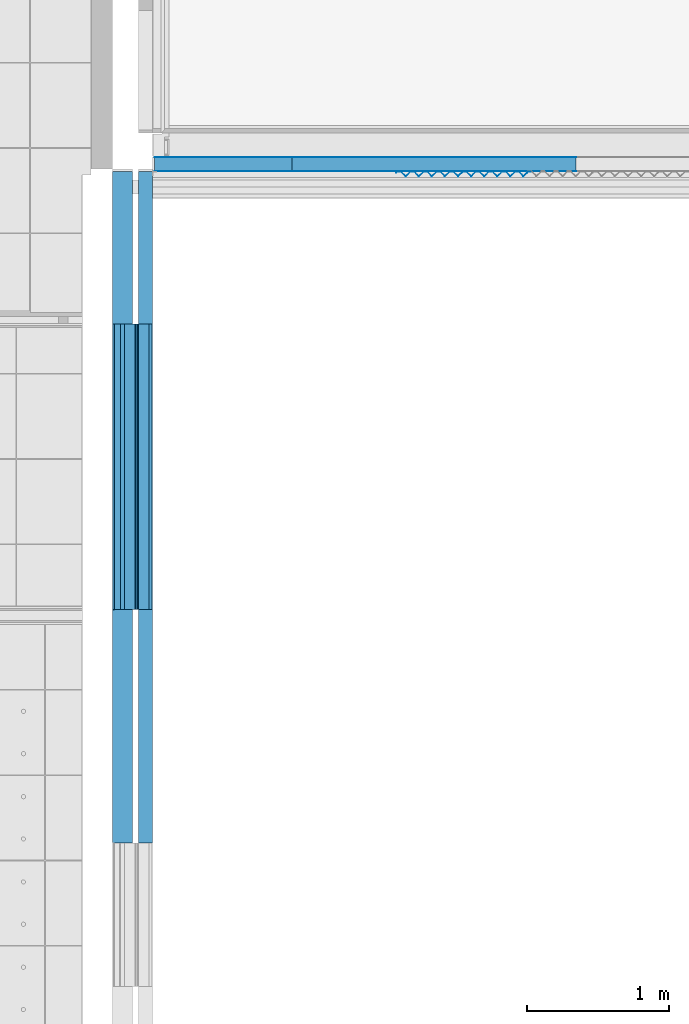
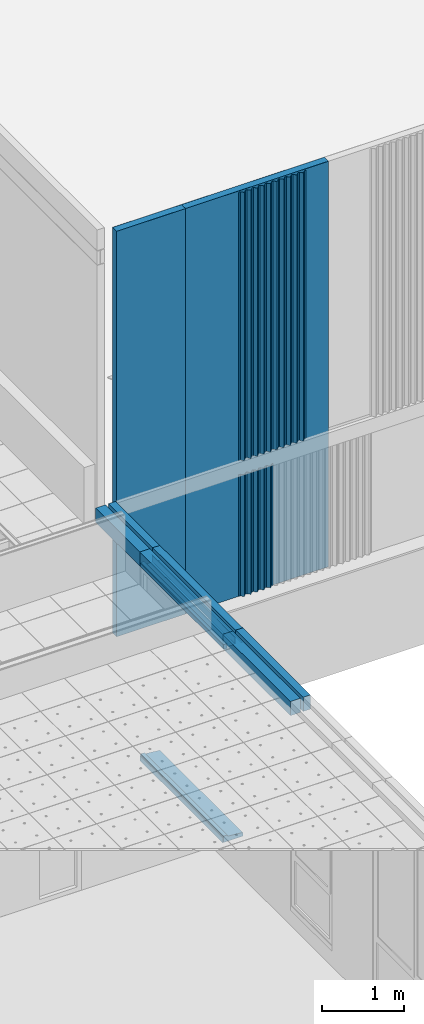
# One storey, part 87 of 338: 21 building element parts, 8 elements without a shape of their own.
"""IFC2X3 building model written with IfcOpenShell, lengths in millimetres."""

from ifc_helpers import new_model, entity, si_unit, converted_unit, derived_unit, money_unit, direction, frame, origin_with_axes, place, context, subcontext, project, spatial, faceted_brep, material, type_object, element, aggregate, save


model = new_model("IFC2X3")

# Units and contexts
model_context = context("Model", 3, precision=0.01, world=origin_with_axes(), true_north=direction((0.0, 1.0)))
plan_context = context("Plan", 3, precision=0.01, world=origin_with_axes(), true_north=direction((0.0, 1.0)))
body_context = subcontext(model_context, "Body", "Model", "MODEL_VIEW")
ifc_project = project(units=[si_unit("LENGTHUNIT", "METRE", prefix="MILLI"), si_unit("AREAUNIT", "SQUARE_METRE"), si_unit("VOLUMEUNIT", "CUBIC_METRE"), converted_unit("PLANEANGLEUNIT", "DEGREE", entity("IfcPlaneAngleMeasure", 0.0174532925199), si_unit("PLANEANGLEUNIT", "RADIAN"), dimensions=[0, 0, 0, 0, 0, 0, 0]), money_unit("EUR"), converted_unit("TIMEUNIT", "Year", entity("IfcTimeMeasure", 31556926.0), si_unit("TIMEUNIT", "SECOND"), dimensions=[0, 0, 1, 0, 0, 0, 0]), si_unit("MASSUNIT", "GRAM", prefix="KILO"), si_unit("THERMODYNAMICTEMPERATUREUNIT", "DEGREE_CELSIUS"), si_unit("LUMINOUSINTENSITYUNIT", "LUMEN"), si_unit("ENERGYUNIT", "JOULE", prefix="MEGA"), derived_unit("THERMALCONDUCTANCEUNIT", [(si_unit("POWERUNIT", "WATT"), 1), (si_unit("LENGTHUNIT", "METRE"), -1), (si_unit("THERMODYNAMICTEMPERATUREUNIT", "KELVIN"), -1)]), derived_unit("SPECIFICHEATCAPACITYUNIT", [(si_unit("ENERGYUNIT", "JOULE"), 1), (si_unit("MASSUNIT", "GRAM", prefix="KILO"), -1), (si_unit("THERMODYNAMICTEMPERATUREUNIT", "KELVIN"), -1)]), derived_unit("MASSDENSITYUNIT", [(si_unit("MASSUNIT", "GRAM", prefix="KILO"), 1), (si_unit("VOLUMEUNIT", "CUBIC_METRE"), -1)])], contexts=[model_context, plan_context])

# Site, building, storey
site_placement = place(None, origin_with_axes())
site = spatial("IfcSite", under=ifc_project, at=site_placement, Name="Fortuinstraat Woensdrecht", CompositionType="ELEMENT")
building_placement = place(site_placement, origin_with_axes())
building = spatial("IfcBuilding", under=site, at=building_placement, Name="IKC Fortuna", CompositionType="ELEMENT")
storey_placement = place(building_placement, origin_with_axes())
storey = spatial("IfcBuildingStorey", under=building, at=storey_placement, Name="00 begane grond", CompositionType="ELEMENT", Elevation=0.0)

# Covering, building element parts
covering_type_1 = type_object("IfcCoveringType", Name="41 Latei MW rollaag 280 x 227", PredefinedType="NOTDEFINED")
covering_1_placement = place(storey_placement, frame((34973.4270641, 19822.2966283, 2800.0), z_axis=(0.0, 0.0, 1.0), x_axis=(0.0, -1.0, 0.0)))
covering_1 = element("IfcCovering", 1, at=covering_1_placement, inside=storey, type_object=covering_type_1, Name="41_Afwerking_Latei + rollaag", PredefinedType="NOTDEFINED")
ifc_material_1 = material(Name="Metaal - Staal C")
building_element_part_1_placement = place(covering_1_placement, origin_with_axes())
building_element_part_1 = element("IfcBuildingElementPart", 2, at=building_element_part_1_placement, material=ifc_material_1, Name="Metaal - Staal C", context=body_context, shape_type="Brep", body=[
    faceted_brep([(2010.0, 19.9999930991, 120.999993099), (0.0, 19.9999930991, 120.999993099), (0.0, 18.0000000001, 119.0), (2010.0, 18.0000000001, 119.0), (0.0, 19.9999930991, 117.000006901), (2010.0, 19.9999930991, 117.000006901)], [[[0, 1, 2, 3]], [[4, 1, 0, 5]], [[1, 4, 2]], [[4, 5, 3, 2]], [[5, 0, 3]]]),
    faceted_brep([(0.0, 33.5147117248, 3.51471862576), (0.0, 32.0, 7.17155621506), (0.0, 32.0, 105.0), (0.0, 29.9999930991, 107.000006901), (0.0, 29.9999930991, 112.580618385), (0.0, 36.0000000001, 106.530733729), (0.0, 36.0000000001, 3.99999999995), (0.0, 36.7573607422, 2.17156942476), (2010.0, 33.5147117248, 3.51471862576), (2010.0, 32.0, 7.17155621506), (2010.0, 32.0, 105.0), (2010.0, 29.9999930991, 107.000006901), (2010.0, 29.9999930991, 112.580618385), (2010.0, 36.0000000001, 106.530733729), (2010.0, 36.0000000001, 3.99999999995), (2010.0, 36.7573607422, 2.17156942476)], [[[0, 1, 2, 3, 4, 5, 6, 7]], [[1, 0, 8, 9]], [[1, 9, 10, 2]], [[11, 3, 2, 10]], [[12, 4, 3, 11]], [[4, 12, 13, 5]], [[5, 13, 14, 6]], [[15, 7, 6, 14]], [[0, 7, 15, 8]], [[8, 15, 14, 13, 12, 11, 10, 9]]]),
    faceted_brep([(2010.0, 119.528896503, -4.86267220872), (0.0, 119.528896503, -4.86267220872), (0.0, 135.215535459, -8.0), (2010.0, 135.215535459, -8.0), (0.0, 118.242633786, -1.75735931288), (2010.0, 118.242633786, -1.75735931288), (0.0, 113.999993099, 0.0), (0.0, 115.609685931, 0.0), (0.0, 136.0, -4.07767729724), (2010.0, 136.0, -4.07767729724), (2010.0, 115.609685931, 0.0), (2010.0, 113.999993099, 0.0)], [[[0, 1, 2, 3]], [[4, 1, 0, 5]], [[4, 6, 7, 8, 2, 1]], [[8, 9, 3, 2]], [[5, 0, 3, 9, 10, 11]], [[6, 4, 5, 11]], [[6, 11, 10, 7]], [[7, 10, 9, 8]]]),
])
ifc_material_2 = material(Name="Steen - Baksteen Accent Rollaag")
building_element_part_2_placement = place(covering_1_placement, origin_with_axes())
building_element_part_2 = element("IfcBuildingElementPart", 3, at=building_element_part_2_placement, material=ifc_material_2, Name="Steen - Baksteen Accent Rollaag", context=body_context, shape_type="Brep", body=[
    faceted_brep([(2010.0, 41.9999930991, 0.0), (0.0, 41.9999930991, 0.0), (0.0, 115.609685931, 0.0), (2010.0, 115.609685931, 0.0), (0.0, 40.0, 0.828424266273), (2010.0, 40.0, 0.828424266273), (0.0, 40.0, 210.0), (0.0, 140.0, 210.0), (0.0, 140.0, 0.0), (2010.0, 140.0, 0.0), (2010.0, 140.0, 210.0), (2010.0, 40.0, 210.0)], [[[0, 1, 2, 3]], [[4, 1, 0, 5]], [[1, 4, 6, 7, 8, 2]], [[8, 9, 3, 2]], [[5, 0, 3, 9, 10, 11]], [[4, 5, 11, 6]], [[6, 11, 10, 7]], [[7, 10, 9, 8]]]),
])
ifc_material_3 = material(Name="Metaal - Staal AFW")
building_element_part_3_placement = place(covering_1_placement, origin_with_axes())
building_element_part_3 = element("IfcBuildingElementPart", 4, at=building_element_part_3_placement, material=ifc_material_3, Name="Metaal - Staal AFW", context=body_context, shape_type="Brep", body=[
    faceted_brep([(2010.0, 19.9999930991, 4.0), (0.0, 19.9999930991, 4.0), (0.0, -58.0, 4.0), (2010.0, -58.0, 4.0), (0.0, 19.9999930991, 0.0), (2010.0, 19.9999930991, 0.0), (0.0, -58.0, 0.0), (2010.0, -58.0, 0.0)], [[[0, 1, 2, 3]], [[4, 1, 0, 5]], [[1, 4, 6, 2]], [[6, 7, 3, 2]], [[5, 0, 3, 7]], [[4, 5, 7, 6]]]),
])
ifc_material_4 = material(Name="ALG - ISOLATIE")
building_element_part_4_placement = place(covering_1_placement, origin_with_axes())
building_element_part_4 = element("IfcBuildingElementPart", 5, at=building_element_part_4_placement, material=ifc_material_4, Name="ALG - ISOLATIE", context=body_context, shape_type="Brep", body=[
    faceted_brep([(2010.0, -140.0, 53.0), (2010.0, -140.0, 210.0), (0.0, -140.0, 210.0), (0.0, -140.0, 53.0), (2010.0, -83.9999988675, 53.0000013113), (2010.0, 0.0, 53.0), (2010.0, 0.0, 210.0), (0.0, 0.0, 210.0), (0.0, 0.0, 53.0), (0.0, -83.9999988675, 53.0000013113)], [[[0, 1, 2, 3]], [[0, 4, 5, 6, 1]], [[1, 6, 7, 2]], [[3, 2, 7, 8, 9]], [[4, 0, 3, 9]], [[5, 4, 9, 8]], [[6, 5, 8, 7]]]),
])
ifc_material_5 = material(Name="Hout AFW")
building_element_part_5_placement = place(covering_1_placement, origin_with_axes())
building_element_part_5 = element("IfcBuildingElementPart", 6, at=building_element_part_5_placement, material=ifc_material_5, Name="Hout AFW", context=body_context, shape_type="Brep", body=[
    faceted_brep([(2010.0, -127.999998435, 53.0000013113), (2010.0, -83.9999988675, 53.0000013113), (0.0, -83.9999988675, 53.0000013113), (0.0, -127.999998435, 53.0000013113), (2010.0, -127.999998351, -1.28576260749e-07), (2010.0, -127.999998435, -17.0), (2010.0, -83.9999988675, -17.0), (0.0, -83.9999988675, -17.0), (0.0, -127.999998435, -17.0), (0.0, -127.999998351, -1.28576260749e-07)], [[[0, 1, 2, 3]], [[0, 4, 5, 6, 1]], [[1, 6, 7, 2]], [[3, 2, 7, 8, 9]], [[4, 0, 3, 9]], [[5, 4, 9, 8]], [[6, 5, 8, 7]]]),
])
ifc_material_6 = material(Name="Isolatie - PUR gespoten")
building_element_part_6_placement = place(covering_1_placement, origin_with_axes())
building_element_part_6 = element("IfcBuildingElementPart", 7, at=building_element_part_6_placement, material=ifc_material_6, Name="Isolatie - PUR gespoten", context=body_context, shape_type="Brep", body=[
    faceted_brep([(2010.0, -139.999999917, 53.0000002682), (2010.0, -127.999998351, 53.0000013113), (0.0, -127.999998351, 53.0000013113), (0.0, -139.999999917, 53.0000002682), (2010.0, -139.999999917, -1.28576260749e-07), (2010.0, -127.999998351, -1.28576260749e-07), (0.0, -127.999998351, -1.28576260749e-07), (0.0, -139.999999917, -1.28576260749e-07)], [[[0, 1, 2, 3]], [[0, 4, 5, 1]], [[1, 5, 6, 2]], [[3, 2, 6, 7]], [[4, 0, 3, 7]], [[5, 4, 7, 6]]]),
])
aggregate(covering_1, [building_element_part_1, building_element_part_2, building_element_part_3, building_element_part_4, building_element_part_5, building_element_part_6])

covering_type_2 = type_object("IfcCoveringType", Name="41 Rollaag 280 x 210", PredefinedType="NOTDEFINED")
covering_2_placement = place(storey_placement, frame((34973.4270641, 17812.2966283, 2800.0), z_axis=(0.0, 0.0, 1.0), x_axis=(0.0, -1.0, 0.0)))
covering_2 = element("IfcCovering", 8, at=covering_2_placement, inside=storey, type_object=covering_type_2, Name="41_Afwerking_Rollaag", PredefinedType="NOTDEFINED")
building_element_part_7_placement = place(covering_2_placement, origin_with_axes())
building_element_part_7 = element("IfcBuildingElementPart", 9, at=building_element_part_7_placement, material=ifc_material_2, Name="Steen - Baksteen Accent Rollaag", context=body_context, shape_type="Brep", body=[
    faceted_brep([(98.6629578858, 40.0, 0.0), (98.6629578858, 41.9999930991, 0.0), (0.0, 41.9999930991, 0.0), (0.0, 140.0, 0.0), (1640.00002062, 140.0, 0.0), (1640.00002062, 41.9999930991, 0.0), (1479.66295789, 41.9999930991, 0.0), (1479.66295789, 40.0, 0.0), (98.6629578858, 40.0, 0.828424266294), (0.0, 40.0, 0.828424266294), (0.0, 40.0, 210.0), (0.0, 140.0, 210.0), (1640.00002062, 140.0, 210.0), (1640.00002062, 40.0, 0.828424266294), (1640.00002062, 40.0, 210.0), (1479.66295789, 40.0, 0.828424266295)], [[[0, 1, 2, 3, 4, 5, 6, 7]], [[1, 0, 8]], [[9, 2, 1, 8]], [[2, 9, 10, 11, 3]], [[11, 12, 4, 3]], [[13, 5, 4, 12, 14]], [[6, 5, 13, 15]], [[7, 6, 15]], [[8, 0, 7, 15, 13, 14, 10, 9]], [[10, 14, 12, 11]]]),
])
building_element_part_8_placement = place(covering_2_placement, origin_with_axes())
building_element_part_8 = element("IfcBuildingElementPart", 10, at=building_element_part_8_placement, material=ifc_material_4, Name="ALG - ISOLATIE", context=body_context, shape_type="Brep", body=[
    faceted_brep([(1640.00002062, 0.0, 0.0), (1640.00002062, -140.0, 0.0), (0.0, -140.0, 0.0), (0.0, 0.0, 0.0), (1640.00002062, 0.0, 210.0), (1640.00002062, -140.0, 210.0), (0.0, -140.0, 210.0), (0.0, 0.0, 210.0)], [[[0, 1, 2, 3]], [[0, 4, 5, 1]], [[1, 5, 6, 2]], [[3, 2, 6, 7]], [[4, 0, 3, 7]], [[5, 4, 7, 6]]]),
])
aggregate(covering_2, [building_element_part_7, building_element_part_8])

covering_3_placement = place(storey_placement, frame((34973.4270641, 20896.2966283, 2800.0), z_axis=(0.0, 0.0, 1.0), x_axis=(0.0, -1.0, 0.0)))
covering_3 = element("IfcCovering", 11, at=covering_3_placement, inside=storey, type_object=covering_type_2, Name="41_Afwerking_Rollaag", PredefinedType="NOTDEFINED")
building_element_part_9_placement = place(covering_3_placement, origin_with_axes())
building_element_part_9 = element("IfcBuildingElementPart", 12, at=building_element_part_9_placement, material=ifc_material_2, Name="Steen - Baksteen Accent Rollaag", context=body_context, shape_type="Brep", body=[
    faceted_brep([(938.662957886, 41.9999930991, 0.0), (938.662957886, 40.0, 0.0), (0.0, 40.0, 0.0), (0.0, 140.0, 0.0), (1074.0, 140.0, 0.0), (1074.0, 41.9999930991, 0.0), (938.662957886, 40.0, 0.828424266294), (1074.0, 40.0, 0.828424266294), (1074.0, 40.0, 210.0), (0.0, 40.0, 210.0), (0.0, 140.0, 210.0), (1074.0, 140.0, 210.0)], [[[0, 1, 2, 3, 4, 5]], [[1, 0, 6]], [[6, 7, 8, 9, 2, 1]], [[3, 2, 9, 10]], [[10, 11, 4, 3]], [[7, 5, 4, 11, 8]], [[0, 5, 7, 6]], [[9, 8, 11, 10]]]),
])
building_element_part_10_placement = place(covering_3_placement, origin_with_axes())
building_element_part_10 = element("IfcBuildingElementPart", 13, at=building_element_part_10_placement, material=ifc_material_4, Name="ALG - ISOLATIE", context=body_context, shape_type="Brep", body=[
    faceted_brep([(1074.0, 0.0, 0.0), (1074.0, -140.0, 0.0), (0.0, -140.0, 0.0), (0.0, 0.0, 0.0), (1074.0, 0.0, 210.0), (1074.0, -140.0, 210.0), (0.0, -140.0, 210.0), (0.0, 0.0, 210.0)], [[[0, 1, 2, 3]], [[0, 4, 5, 1]], [[1, 5, 6, 2]], [[3, 2, 6, 7]], [[4, 0, 3, 7]], [[5, 4, 7, 6]]]),
])
aggregate(covering_3, [building_element_part_9, building_element_part_10])

# Wall, building element parts
wall_type = type_object("IfcWallType", Name="21 sandwich 100", PredefinedType="NOTDEFINED")
wall_1_placement = place(storey_placement, frame((36093.4131798, 20996.2966283, 1000.0), z_axis=(0.0, 0.0, 1.0), x_axis=(-1.0, 0.0, 0.0)))
wall_1 = element("IfcWall", 14, at=wall_1_placement, inside=storey, type_object=wall_type, Name="21_Wand_sandwichplaat")
ifc_material_7 = material(Name="Metaal - Aluminium")
building_element_part_11_placement = place(wall_1_placement, origin_with_axes())
building_element_part_11 = element("IfcBuildingElementPart", 15, at=building_element_part_11_placement, material=ifc_material_7, Name="Metaal - Aluminium", context=body_context, shape_type="Brep", body=[
    faceted_brep([(0.0, 99.0, 6000.0), (964.886122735, 99.0, 6000.0), (964.886122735, 100.0, 6000.0), (0.0, 100.0, 6000.0), (0.0, 99.0, 0.0), (964.886122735, 99.0, 0.0), (964.886122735, 100.0, 0.0), (0.0, 100.0, 0.0)], [[[0, 1, 2, 3]], [[4, 5, 1, 0]], [[2, 1, 5, 6]], [[3, 2, 6, 7]], [[4, 0, 3, 7]], [[7, 6, 5, 4]]]),
])
ifc_material_8 = material(Name="Isolatie - Kunststof hard")
building_element_part_12_placement = place(wall_1_placement, origin_with_axes())
building_element_part_12 = element("IfcBuildingElementPart", 16, at=building_element_part_12_placement, material=ifc_material_8, Name="Isolatie - Kunststof hard", context=body_context, shape_type="Brep", body=[
    faceted_brep([(964.886122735, 1.0, 5470.0168254), (859.986122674, 1.0, 5470.0168254), (859.986122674, 1.0, 5473.51732078), (861.889928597, 1.0, 5478.11416539), (866.486122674, 1.0, 5480.01824077), (956.986122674, 1.0, 5480.01824077), (963.486122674, 1.0, 5481.76015704), (964.886122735, 1.0, 5483.16035525), (964.886122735, 1.0, 6000.0), (0.0, 1.0, 6000.0), (0.0, 1.0, 0.0), (964.886122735, 1.0, 0.0), (964.886122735, 1.83932469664, 5470.03094738), (859.986122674, 1.83932469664, 5470.03094738), (859.986122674, 1.78044410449, 5473.53045207), (861.889928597, 1.70312221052, 5478.12599571), (866.486122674, 1.67109443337, 5480.02953221), (956.986122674, 1.67109443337, 5480.02953221), (963.486122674, 1.6417942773, 5481.77095549), (964.886122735, 1.61824203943, 5483.17075742), (964.886122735, 99.0, 0.0), (964.886122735, 99.0, 6000.0), (0.0, 99.0, 6000.0), (0.0, 99.0, 0.0)], [[[0, 1, 2, 3, 4, 5, 6, 7, 8, 9, 10, 11]], [[1, 0, 12, 13]], [[2, 1, 13, 14]], [[3, 2, 14, 15]], [[4, 3, 15, 16]], [[5, 4, 16, 17]], [[6, 5, 17, 18]], [[7, 6, 18, 19]], [[12, 0, 11, 20, 21, 8, 7, 19]], [[9, 8, 21, 22]], [[10, 9, 22, 23]], [[23, 20, 11, 10]], [[12, 19, 18, 17, 16, 15, 14, 13]], [[22, 21, 20, 23]]]),
])
building_element_part_13_placement = place(wall_1_placement, origin_with_axes())
building_element_part_13 = element("IfcBuildingElementPart", 17, at=building_element_part_13_placement, material=ifc_material_7, Name="Metaal - Aluminium", context=body_context, shape_type="Brep", body=[
    faceted_brep([(964.886122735, 0.99999998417, 18.9261694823), (964.886122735, 1.0, 5470.0168254), (964.886122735, 0.0, 5470.0), (964.886122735, 0.0, 18.9263474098), (0.0, 0.999999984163, 18.9261694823), (0.0, 1.0, 6000.0), (964.886122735, 1.0, 6000.0), (964.886122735, 1.0, 5483.16035525), (963.486122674, 1.0, 5481.76015704), (956.986122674, 1.0, 5480.01824077), (866.486122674, 1.0, 5480.01824077), (861.889928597, 1.0, 5478.11416539), (859.986122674, 1.0, 5473.51732078), (859.986122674, 1.0, 5470.0168254), (859.986122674, 0.0, 5470.0), (859.986122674, 0.0, 5473.50049538), (861.889928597, 0.0, 5478.09733999), (866.486122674, 0.0, 5480.00141537), (956.986122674, 0.0, 5480.00141537), (963.486122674, 0.0, 5481.74333163), (964.886122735, 0.0, 5483.14352984), (964.886122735, 0.0, 6000.0), (0.0, 0.0, 6000.0), (0.0, 0.0, 18.9263474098)], [[[0, 1, 2, 3]], [[1, 0, 4, 5, 6, 7, 8, 9, 10, 11, 12, 13]], [[2, 1, 13, 14]], [[3, 2, 14, 15, 16, 17, 18, 19, 20, 21, 22, 23]], [[0, 3, 23, 4]], [[5, 4, 23, 22]], [[21, 6, 5, 22]], [[7, 6, 21, 20]], [[8, 7, 20, 19]], [[19, 18, 9, 8]], [[10, 9, 18, 17]], [[11, 10, 17, 16]], [[11, 16, 15, 12]], [[15, 14, 13, 12]]]),
])
aggregate(wall_1, [building_element_part_11, building_element_part_12, building_element_part_13])

wall_2_placement = place(storey_placement, frame((38093.4131798, 20996.2966283, 1000.0), z_axis=(0.0, 0.0, 1.0), x_axis=(-1.0, 0.0, 0.0)))
wall_2 = element("IfcWall", 18, at=wall_2_placement, inside=storey, type_object=wall_type, Name="21_Wand_sandwichplaat")
building_element_part_14_placement = place(wall_2_placement, origin_with_axes())
building_element_part_14 = element("IfcBuildingElementPart", 19, at=building_element_part_14_placement, material=ifc_material_7, Name="Metaal - Aluminium", context=body_context, shape_type="Brep", body=[
    faceted_brep([(0.0, 99.0, 6000.0), (2000.0, 99.0, 6000.0), (2000.0, 100.0, 6000.0), (0.0, 100.0, 6000.0), (0.0, 99.0, 0.0), (2000.0, 99.0, 0.0), (2000.0, 100.0, 0.0), (0.0, 100.0, 0.0)], [[[0, 1, 2, 3]], [[4, 5, 1, 0]], [[2, 1, 5, 6]], [[3, 2, 6, 7]], [[4, 0, 3, 7]], [[7, 6, 5, 4]]]),
])
building_element_part_15_placement = place(wall_2_placement, origin_with_axes())
building_element_part_15 = element("IfcBuildingElementPart", 20, at=building_element_part_15_placement, material=ifc_material_8, Name="Isolatie - Kunststof hard", context=body_context, shape_type="Brep", body=[
    faceted_brep([(2000.0, 1.0, 6000.0), (2000.0, 99.0, 6000.0), (0.0, 99.0, 6000.0), (0.0, 1.0, 6000.0), (2000.0, 1.0, 0.0), (2000.0, 99.0, 0.0), (0.0, 99.0, 0.0), (0.0, 1.0, 0.0)], [[[0, 1, 2, 3]], [[0, 4, 5, 1]], [[1, 5, 6, 2]], [[3, 2, 6, 7]], [[4, 0, 3, 7]], [[5, 4, 7, 6]]]),
])
building_element_part_16_placement = place(wall_2_placement, origin_with_axes())
building_element_part_16 = element("IfcBuildingElementPart", 21, at=building_element_part_16_placement, material=ifc_material_7, Name="Metaal - Aluminium", context=body_context, shape_type="Brep", body=[
    faceted_brep([(2000.0, 1.0, 6000.0), (2000.0, 0.999999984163, 18.9261694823), (0.0, 0.999999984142, 18.9261694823), (0.0, 1.0, 6000.0), (2000.0, 0.0, 18.9263474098), (2000.0, 0.0, 6000.0), (0.0, 0.0, 18.9263474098), (0.0, 0.0, 6000.0)], [[[0, 1, 2, 3]], [[4, 1, 0, 5]], [[1, 4, 6, 2]], [[3, 2, 6, 7]], [[5, 0, 3, 7]], [[4, 5, 7, 6]]]),
])
aggregate(wall_2, [building_element_part_14, building_element_part_15, building_element_part_16])

# Covering, building element parts
covering_type_3 = type_object("IfcCoveringType", Name="41 dorpel d bi 280 x 95", PredefinedType="NOTDEFINED")
covering_4_placement = place(storey_placement, frame((34973.4267756, 19822.2966283, -2.5), z_axis=(0.0, 0.0, 1.0), x_axis=(0.0, -1.0, 0.0)))
covering_4 = element("IfcCovering", 22, at=covering_4_placement, inside=storey, type_object=covering_type_3, Name="41_Afwerking_Dorpel", PredefinedType="NOTDEFINED")
ifc_material_9 = material(Name="Steen - Kunststeen")
building_element_part_17_placement = place(covering_4_placement, origin_with_axes())
building_element_part_17 = element("IfcBuildingElementPart", 23, at=building_element_part_17_placement, material=ifc_material_9, Name="Steen - Kunststeen", context=body_context, shape_type="Brep", body=[
    faceted_brep([(2010.0, 140.0, -17.1401037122), (2010.0, 140.0, -72.5), (0.0, 140.0, -72.5), (0.0, 140.0, -17.1401037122), (2010.0, -76.0, 2.5), (2010.0, -76.0, 22.5), (2010.0, -130.0, 22.5), (2010.0, -129.999999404, 2.49999821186), (2010.0, -130.0, -72.5), (0.0, -130.0, -72.5), (0.0, -129.999999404, 2.49999821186), (0.0, -130.0, 22.5), (0.0, -76.0, 22.5), (0.0, -76.0, 2.5)], [[[0, 1, 2, 3]], [[0, 4, 5, 6, 7, 8, 1]], [[1, 8, 9, 2]], [[3, 2, 9, 10, 11, 12, 13]], [[4, 0, 3, 13]], [[5, 4, 13, 12]], [[6, 5, 12, 11]], [[7, 6, 11, 10]], [[8, 7, 10, 9]]]),
])
building_element_part_18_placement = place(covering_4_placement, origin_with_axes())
building_element_part_18 = element("IfcBuildingElementPart", 24, at=building_element_part_18_placement, material=ifc_material_6, Name="Isolatie - PUR gespoten", context=body_context, shape_type="Brep", body=[
    faceted_brep([(2010.0, -140.0, 2.49999821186), (2010.0, -129.999999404, 2.49999821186), (0.0, -129.999999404, 2.49999821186), (0.0, -140.0, 2.49999821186), (2010.0, -140.0, -72.5), (2010.0, -129.999999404, -72.5), (0.0, -129.999999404, -72.5), (0.0, -140.0, -72.5)], [[[0, 1, 2, 3]], [[0, 4, 5, 1]], [[1, 5, 6, 2]], [[3, 2, 6, 7]], [[4, 0, 3, 7]], [[5, 4, 7, 6]]]),
])
aggregate(covering_4, [building_element_part_17, building_element_part_18])

# Proxy, building element parts
building_element_proxy_type = type_object("IfcBuildingElementProxyType", Name="21 Sandwich custom pyramid 946 x 37", PredefinedType="NOTDEFINED")
proxy_1_placement = place(storey_placement, frame((37774.9270571, 20896.2966283, 3010.0), z_axis=(0.0, 0.0, 1.0), x_axis=(-1.0, 0.0, 0.0)))
proxy_1 = element("IfcBuildingElementProxy", 25, at=proxy_1_placement, inside=storey, type_object=building_element_proxy_type, Name="41_Generieke bekleding & afwerking buiten_sandwich custom pyramid")
building_element_part_19_placement = place(proxy_1_placement, origin_with_axes())
building_element_part_19 = element("IfcBuildingElementPart", 26, at=building_element_part_19_placement, material=ifc_material_7, Name="Metaal - Aluminium", context=body_context, shape_type="Brep", body=[
    faceted_brep([(0.0, 2.39999686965, 0.0), (0.0, 1.20000548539, 0.0), (0.0, 1.20000548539, 3969.99999804), (0.0, 2.39999686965, 3969.99999804), (16.7470988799, 2.39999686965, 0.0), (52.0000026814, 36.6736482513, 0.0), (88.487191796, 1.20000548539, 0.0), (107.51282048, 1.20000548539, 0.0), (143.999995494, 36.6736482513, 0.0), (180.487184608, 1.20000548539, 0.0), (199.512813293, 1.20000548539, 0.0), (236.000002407, 36.6736482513, 0.0), (272.487191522, 1.20000548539, 0.0), (291.512820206, 1.20000548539, 0.0), (327.99999522, 36.6736482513, 0.0), (364.487184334, 1.20000548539, 0.0), (383.512813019, 1.20000548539, 0.0), (420.000002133, 36.6736482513, 0.0), (456.487191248, 1.20000548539, 0.0), (460.000006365, 1.20000548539, 0.0), (477.23428491, 1.20000548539, 0.0), (485.472879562, 9.20975302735, 0.0), (486.309372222, 8.34935896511, 0.0), (477.721464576, 0.0, 0.0), (455.999997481, 0.0, 0.0), (420.000002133, 35.0000001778, 0.0), (384.000006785, 0.0, 0.0), (364.000004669, 0.0, 0.0), (327.99999522, 35.0000001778, 0.0), (291.999999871, 0.0, 0.0), (271.999997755, 0.0, 0.0), (236.000002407, 35.0000001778, 0.0), (199.999992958, 0.0, 0.0), (180.000004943, 0.0, 0.0), (143.999995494, 35.0000001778, 0.0), (108.000000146, 0.0, 0.0), (87.9999980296, 0.0, 0.0), (52.0000026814, 35.0000001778, 0.0), (17.2342926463, 1.20000548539, 0.0), (17.2342926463, 1.20000548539, 3969.99999804), (52.0000026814, 35.0000001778, 3969.99999804), (87.9999980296, 0.0, 3969.99999804), (108.000000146, 0.0, 3969.99999804), (143.999995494, 35.0000001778, 3969.99999804), (180.000004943, 0.0, 3969.99999804), (199.999992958, 0.0, 3969.99999804), (236.000002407, 35.0000001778, 3969.99999804), (271.999997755, 0.0, 3969.99999804), (291.999999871, 0.0, 3969.99999804), (327.99999522, 35.0000001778, 3969.99999804), (364.000004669, 0.0, 3969.99999804), (384.000006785, 0.0, 3969.99999804), (420.000002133, 35.0000001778, 3969.99999804), (455.999997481, 0.0, 3969.99999804), (477.721464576, 0.0, 3969.99999804), (486.309372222, 8.34935896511, 3969.99999804), (485.472879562, 9.20975302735, 3969.99999804), (477.23428491, 1.20000548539, 3969.99999804), (460.000006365, 1.20000548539, 3969.99999804), (456.487191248, 1.20000548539, 3969.99999804), (420.000002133, 36.6736482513, 3969.99999804), (383.512813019, 1.20000548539, 3969.99999804), (364.487184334, 1.20000548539, 3969.99999804), (327.99999522, 36.6736482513, 3969.99999804), (291.512820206, 1.20000548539, 3969.99999804), (272.487191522, 1.20000548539, 3969.99999804), (236.000002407, 36.6736482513, 3969.99999804), (199.512813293, 1.20000548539, 3969.99999804), (180.487184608, 1.20000548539, 3969.99999804), (143.999995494, 36.6736482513, 3969.99999804), (107.51282048, 1.20000548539, 3969.99999804), (88.487191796, 1.20000548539, 3969.99999804), (52.0000026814, 36.6736482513, 3969.99999804), (16.7470988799, 2.39999686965, 3969.99999804)], [[[0, 1, 2, 3]], [[0, 4, 5, 6, 7, 8, 9, 10, 11, 12, 13, 14, 15, 16, 17, 18, 19, 20, 21, 22, 23, 24, 25, 26, 27, 28, 29, 30, 31, 32, 33, 34, 35, 36, 37, 38, 1]], [[1, 38, 39, 2]], [[3, 2, 39, 40, 41, 42, 43, 44, 45, 46, 47, 48, 49, 50, 51, 52, 53, 54, 55, 56, 57, 58, 59, 60, 61, 62, 63, 64, 65, 66, 67, 68, 69, 70, 71, 72, 73]], [[4, 0, 3, 73]], [[5, 4, 73, 72]], [[6, 5, 72, 71]], [[7, 6, 71, 70]], [[8, 7, 70, 69]], [[9, 8, 69, 68]], [[10, 9, 68, 67]], [[11, 10, 67, 66]], [[12, 11, 66, 65]], [[13, 12, 65, 64]], [[14, 13, 64, 63]], [[15, 14, 63, 62]], [[16, 15, 62, 61]], [[17, 16, 61, 60]], [[18, 17, 60, 59]], [[19, 18, 59, 58]], [[20, 19, 58, 57]], [[21, 20, 57, 56]], [[22, 21, 56, 55]], [[23, 22, 55, 54]], [[24, 23, 54, 53]], [[25, 24, 53, 52]], [[26, 25, 52, 51]], [[27, 26, 51, 50]], [[28, 27, 50, 49]], [[29, 28, 49, 48]], [[30, 29, 48, 47]], [[31, 30, 47, 46]], [[32, 31, 46, 45]], [[33, 32, 45, 44]], [[34, 33, 44, 43]], [[35, 34, 43, 42]], [[36, 35, 42, 41]], [[37, 36, 41, 40]], [[38, 37, 40, 39]]]),
])
building_element_part_20_placement = place(proxy_1_placement, origin_with_axes())
building_element_part_20 = element("IfcBuildingElementPart", 27, at=building_element_part_20_placement, material=ifc_material_7, Name="Metaal - Aluminium", context=body_context, shape_type="Brep", body=[
    faceted_brep([(460.0, 1.2, 0.0), (477.234285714, 1.2, 0.0), (477.234285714, 1.2, 3969.99999804), (460.0, 1.2, 3969.99999804), (460.0, 2.4, 0.0), (476.747100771, 2.4, 0.0), (512.0, 36.6736520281, 0.0), (548.487184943, 1.2, 0.0), (567.512815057, 1.2, 0.0), (604.0, 36.6736520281, 0.0), (640.487184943, 1.2, 0.0), (659.512815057, 1.2, 0.0), (696.0, 36.6736520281, 0.0), (732.487184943, 1.2, 0.0), (751.512815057, 1.2, 0.0), (788.0, 36.6736520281, 0.0), (824.487184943, 1.2, 0.0), (843.512815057, 1.2, 0.0), (880.0, 36.6736520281, 0.0), (916.487184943, 1.2, 0.0), (937.234285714, 1.2, 0.0), (945.472884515, 9.20974883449, 0.0), (946.309378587, 8.34935493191, 0.0), (937.721470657, 0.0, 0.0), (916.0, 0.0, 0.0), (880.0, 35.0, 0.0), (844.0, 0.0, 0.0), (824.0, 0.0, 0.0), (788.0, 35.0, 0.0), (752.0, 0.0, 0.0), (732.0, 0.0, 0.0), (696.0, 35.0, 0.0), (660.0, 0.0, 0.0), (640.0, 0.0, 0.0), (604.0, 35.0, 0.0), (568.0, 0.0, 0.0), (548.0, 0.0, 0.0), (512.0, 35.0, 0.0), (485.472879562, 9.20975302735, 0.0), (485.472879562, 9.20975302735, 3969.99999804), (512.0, 35.0, 3969.99999804), (548.0, 0.0, 3969.99999804), (568.0, 0.0, 3969.99999804), (604.0, 35.0, 3969.99999804), (640.0, 0.0, 3969.99999804), (660.0, 0.0, 3969.99999804), (696.0, 35.0, 3969.99999804), (732.0, 0.0, 3969.99999804), (752.0, 0.0, 3969.99999804), (788.0, 35.0, 3969.99999804), (824.0, 0.0, 3969.99999804), (844.0, 0.0, 3969.99999804), (880.0, 35.0, 3969.99999804), (916.0, 0.0, 3969.99999804), (937.721470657, 0.0, 3969.99999804), (946.309378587, 8.34935493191, 3969.99999804), (945.472884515, 9.20974883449, 3969.99999804), (937.234285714, 1.2, 3969.99999804), (916.487184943, 1.2, 3969.99999804), (880.0, 36.6736520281, 3969.99999804), (843.512815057, 1.2, 3969.99999804), (824.487184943, 1.2, 3969.99999804), (788.0, 36.6736520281, 3969.99999804), (751.512815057, 1.2, 3969.99999804), (732.487184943, 1.2, 3969.99999804), (696.0, 36.6736520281, 3969.99999804), (659.512815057, 1.2, 3969.99999804), (640.487184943, 1.2, 3969.99999804), (604.0, 36.6736520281, 3969.99999804), (567.512815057, 1.2, 3969.99999804), (548.487184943, 1.2, 3969.99999804), (512.0, 36.6736520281, 3969.99999804), (476.747100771, 2.4, 3969.99999804), (460.0, 2.4, 3969.99999804)], [[[0, 1, 2, 3]], [[0, 4, 5, 6, 7, 8, 9, 10, 11, 12, 13, 14, 15, 16, 17, 18, 19, 20, 21, 22, 23, 24, 25, 26, 27, 28, 29, 30, 31, 32, 33, 34, 35, 36, 37, 38, 1]], [[1, 38, 39, 2]], [[3, 2, 39, 40, 41, 42, 43, 44, 45, 46, 47, 48, 49, 50, 51, 52, 53, 54, 55, 56, 57, 58, 59, 60, 61, 62, 63, 64, 65, 66, 67, 68, 69, 70, 71, 72, 73]], [[4, 0, 3, 73]], [[5, 4, 73, 72]], [[6, 5, 72, 71]], [[7, 6, 71, 70]], [[8, 7, 70, 69]], [[9, 8, 69, 68]], [[10, 9, 68, 67]], [[11, 10, 67, 66]], [[12, 11, 66, 65]], [[13, 12, 65, 64]], [[14, 13, 64, 63]], [[15, 14, 63, 62]], [[16, 15, 62, 61]], [[17, 16, 61, 60]], [[18, 17, 60, 59]], [[19, 18, 59, 58]], [[20, 19, 58, 57]], [[21, 20, 57, 56]], [[22, 21, 56, 55]], [[23, 22, 55, 54]], [[24, 23, 54, 53]], [[25, 24, 53, 52]], [[26, 25, 52, 51]], [[27, 26, 51, 50]], [[28, 27, 50, 49]], [[29, 28, 49, 48]], [[30, 29, 48, 47]], [[31, 30, 47, 46]], [[32, 31, 46, 45]], [[33, 32, 45, 44]], [[34, 33, 44, 43]], [[35, 34, 43, 42]], [[36, 35, 42, 41]], [[37, 36, 41, 40]], [[38, 37, 40, 39]]]),
])
aggregate(proxy_1, [building_element_part_19, building_element_part_20])

# Proxy, building element part
proxy_2_placement = place(storey_placement, frame((37774.9270571, 20896.2966283, 1000.0), z_axis=(0.0, 0.0, 1.0), x_axis=(-1.0, 0.0, 0.0)))
proxy_2 = element("IfcBuildingElementProxy", 28, at=proxy_2_placement, inside=storey, type_object=building_element_proxy_type, Name="41_Generieke bekleding & afwerking buiten_sandwich custom pyramid")
building_element_part_21_placement = place(proxy_2_placement, origin_with_axes())
building_element_part_21 = element("IfcBuildingElementPart", 29, at=building_element_part_21_placement, material=ifc_material_7, Name="Metaal - Aluminium", context=body_context, shape_type="Brep", body=[
    faceted_brep([(460.0, 1.2, 0.0), (477.234285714, 1.2, 0.0), (477.234285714, 1.2, 1800.85690838), (460.0, 1.2, 1800.85690838), (460.0, 2.4, 0.0), (476.747100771, 2.4, 0.0), (512.0, 36.6736520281, 0.0), (548.487184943, 1.2, 0.0), (567.512815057, 1.2, 0.0), (604.0, 36.6736520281, 0.0), (640.487184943, 1.2, 0.0), (659.512815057, 1.2, 0.0), (696.0, 36.6736520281, 0.0), (732.487184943, 1.2, 0.0), (751.512815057, 1.2, 0.0), (788.0, 36.6736520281, 0.0), (824.487184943, 1.2, 0.0), (843.512815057, 1.2, 0.0), (880.0, 36.6736520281, 0.0), (916.487184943, 1.2, 0.0), (937.234285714, 1.2, 0.0), (945.472884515, 9.20974883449, 0.0), (946.309378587, 8.34935493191, 0.0), (937.721470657, 0.0, 0.0), (916.0, 0.0, 0.0), (880.0, 35.0, 0.0), (844.0, 0.0, 0.0), (824.0, 0.0, 0.0), (788.0, 35.0, 0.0), (752.0, 0.0, 0.0), (732.0, 0.0, 0.0), (696.0, 35.0, 0.0), (660.0, 0.0, 0.0), (640.0, 0.0, 0.0), (604.0, 35.0, 0.0), (568.0, 0.0, 0.0), (548.0, 0.0, 0.0), (512.0, 35.0, 0.0), (485.472879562, 9.20975302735, 0.0), (485.472879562, 9.20975302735, 1800.85690838), (512.0, 35.0, 1800.85690838), (548.0, 0.0, 1800.85690838), (568.0, 0.0, 1800.85690838), (604.0, 35.0, 1800.85690838), (640.0, 0.0, 1800.85690838), (660.0, 0.0, 1800.85690838), (696.0, 35.0, 1800.85690838), (732.0, 0.0, 1800.85690838), (752.0, 0.0, 1800.85690838), (788.0, 35.0, 1800.85690838), (824.0, 0.0, 1800.85690838), (844.0, 0.0, 1800.85690838), (880.0, 35.0, 1800.85690838), (916.0, 0.0, 1800.85690838), (937.721470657, 0.0, 1800.85690838), (946.309378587, 8.34935493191, 1800.85690838), (945.472884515, 9.20974883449, 1800.85690838), (937.234285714, 1.2, 1800.85690838), (916.487184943, 1.2, 1800.85690838), (880.0, 36.6736520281, 1800.85690838), (843.512815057, 1.2, 1800.85690838), (824.487184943, 1.2, 1800.85690838), (788.0, 36.6736520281, 1800.85690838), (751.512815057, 1.2, 1800.85690838), (732.487184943, 1.2, 1800.85690838), (696.0, 36.6736520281, 1800.85690838), (659.512815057, 1.2, 1800.85690838), (640.487184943, 1.2, 1800.85690838), (604.0, 36.6736520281, 1800.85690838), (567.512815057, 1.2, 1800.85690838), (548.487184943, 1.2, 1800.85690838), (512.0, 36.6736520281, 1800.85690838), (476.747100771, 2.4, 1800.85690838), (460.0, 2.4, 1800.85690838)], [[[0, 1, 2, 3]], [[0, 4, 5, 6, 7, 8, 9, 10, 11, 12, 13, 14, 15, 16, 17, 18, 19, 20, 21, 22, 23, 24, 25, 26, 27, 28, 29, 30, 31, 32, 33, 34, 35, 36, 37, 38, 1]], [[1, 38, 39, 2]], [[3, 2, 39, 40, 41, 42, 43, 44, 45, 46, 47, 48, 49, 50, 51, 52, 53, 54, 55, 56, 57, 58, 59, 60, 61, 62, 63, 64, 65, 66, 67, 68, 69, 70, 71, 72, 73]], [[4, 0, 3, 73]], [[5, 4, 73, 72]], [[6, 5, 72, 71]], [[7, 6, 71, 70]], [[8, 7, 70, 69]], [[9, 8, 69, 68]], [[10, 9, 68, 67]], [[11, 10, 67, 66]], [[12, 11, 66, 65]], [[13, 12, 65, 64]], [[14, 13, 64, 63]], [[15, 14, 63, 62]], [[16, 15, 62, 61]], [[17, 16, 61, 60]], [[18, 17, 60, 59]], [[19, 18, 59, 58]], [[20, 19, 58, 57]], [[21, 20, 57, 56]], [[22, 21, 56, 55]], [[23, 22, 55, 54]], [[24, 23, 54, 53]], [[25, 24, 53, 52]], [[26, 25, 52, 51]], [[27, 26, 51, 50]], [[28, 27, 50, 49]], [[29, 28, 49, 48]], [[30, 29, 48, 47]], [[31, 30, 47, 46]], [[32, 31, 46, 45]], [[33, 32, 45, 44]], [[34, 33, 44, 43]], [[35, 34, 43, 42]], [[36, 35, 42, 41]], [[37, 36, 41, 40]], [[38, 37, 40, 39]]]),
])
aggregate(proxy_2, [building_element_part_21])

save(model, "model.ifc")
